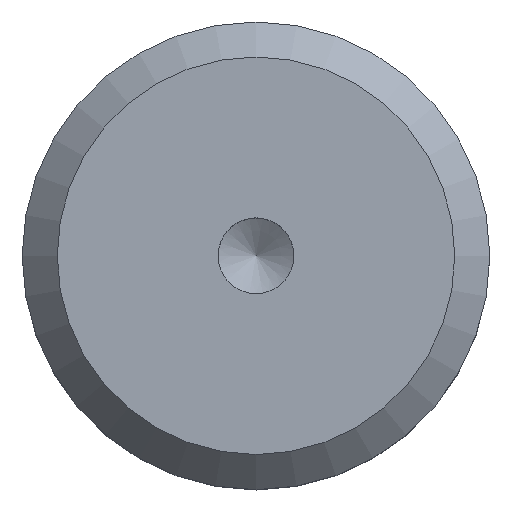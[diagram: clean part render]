
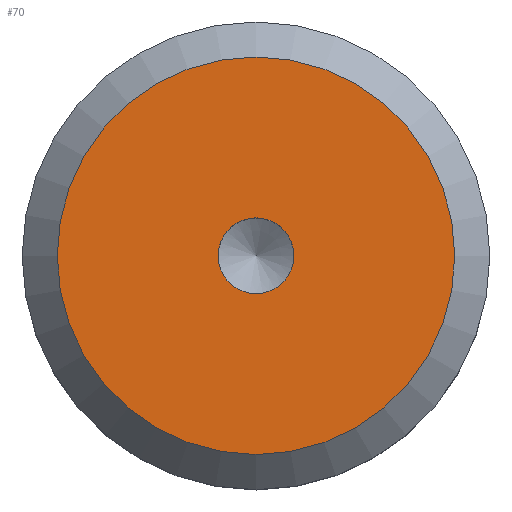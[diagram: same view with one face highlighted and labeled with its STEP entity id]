
A CAD part, top view. The second image highlights one B-rep face of the part: STEP entity #70.
In plain terms, the highlighted planar face has unit normal (0, 0, 1).
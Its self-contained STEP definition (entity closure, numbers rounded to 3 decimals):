
#15=PLANE('',#83);
#20=FACE_BOUND('',#37,.T.);
#27=FACE_OUTER_BOUND('',#36,.T.);
#36=EDGE_LOOP('',(#61));
#37=EDGE_LOOP('',(#62));
#40=CIRCLE('',#77,1.621);
#42=CIRCLE('',#80,8.5);
#45=VERTEX_POINT('',#114);
#47=VERTEX_POINT('',#119);
#50=EDGE_CURVE('',#45,#45,#40,.T.);
#52=EDGE_CURVE('',#47,#47,#42,.T.);
#61=ORIENTED_EDGE('',*,*,#52,.F.);
#62=ORIENTED_EDGE('',*,*,#50,.T.);
#70=ADVANCED_FACE('',(#27,#20),#15,.T.);
#77=AXIS2_PLACEMENT_3D('',#115,#93,#94);
#80=AXIS2_PLACEMENT_3D('',#120,#99,#100);
#83=AXIS2_PLACEMENT_3D('',#124,#105,#106);
#93=DIRECTION('center_axis',(0.,0.,-1.));
#94=DIRECTION('ref_axis',(1.,0.,0.));
#99=DIRECTION('center_axis',(0.,0.,-1.));
#100=DIRECTION('ref_axis',(-1.,0.,0.));
#105=DIRECTION('center_axis',(0.,0.,1.));
#106=DIRECTION('ref_axis',(1.,0.,0.));
#114=CARTESIAN_POINT('',(1.621,0.,9.5));
#115=CARTESIAN_POINT('Origin',(0.,0.,9.5));
#119=CARTESIAN_POINT('',(8.5,0.,9.5));
#120=CARTESIAN_POINT('Origin',(0.,0.,9.5));
#124=CARTESIAN_POINT('Origin',(0.,0.,
9.5));
